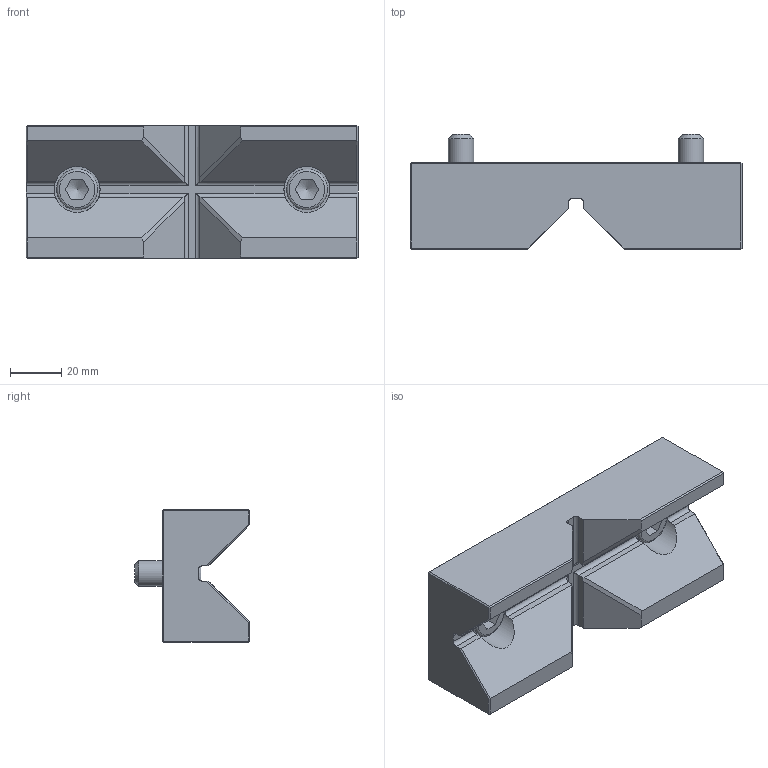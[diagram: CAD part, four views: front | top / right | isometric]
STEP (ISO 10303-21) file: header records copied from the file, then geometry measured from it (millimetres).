
FILE_DESCRIPTION(('STEP AP214'), '1');
FILE_NAME('BB.VS.130.70.020', '', ('UNSPECIFIED'), ('UNSPECIFIED'), 'C3D Converter', 'C3D Toolkit', '');
FILE_SCHEMA(('AUTOMOTIVE_DESIGN { 1 0 10303 214 3 1 1}'));
Length unit declared in the file: millimetre
Products named in the file (1): BB.VS.130.70.020 СБ
Bounding box: 130 x 45 x 52 mm (x, y, z)
Volume: 168978.1 mm3; surface area: 31043.6 mm2
Topology: 1 solids, 1 shells, 116 faces, 282 edges, 174 vertices
Faces by surface type: plane 84, cylinder 20, cone 8, torus 4
Full cylindrical faces by diameter (mm): 10 x2, 11 x2, 16 x2, 18 x2
Entity records: 4765 total; most frequent: CARTESIAN_POINT 1229, ORIENTED_EDGE 520, DIRECTION 502, EDGE_CURVE 260, LINE 192, VECTOR 192, VERTEX_POINT 172, AXIS2_PLACEMENT_3D 155
